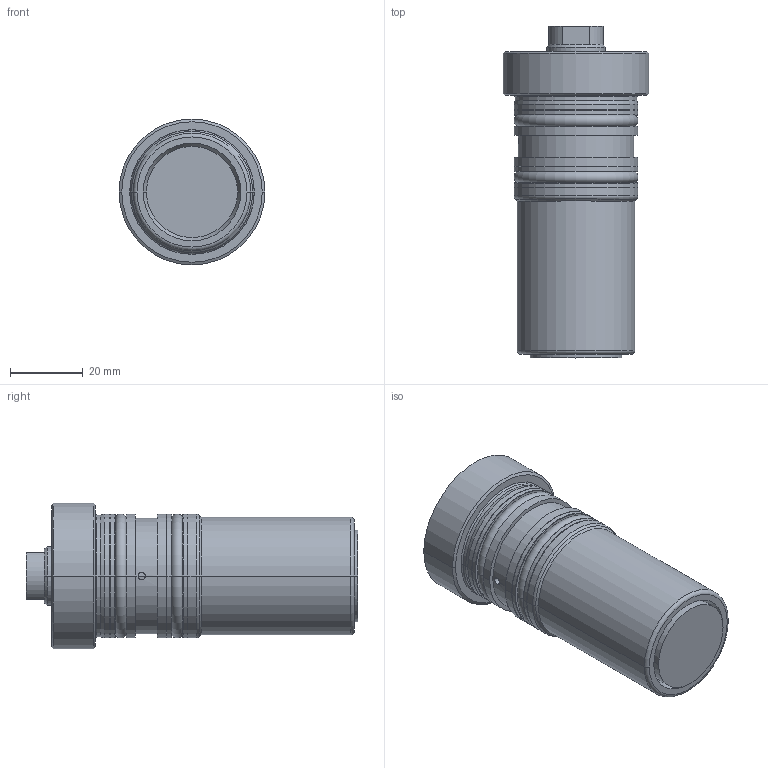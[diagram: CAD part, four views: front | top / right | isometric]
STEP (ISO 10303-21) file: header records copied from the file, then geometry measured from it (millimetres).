
FILE_DESCRIPTION (( 'STEP AP203' ), '1' );
FILE_NAME ('GERMA_Einschraubzylinder_200-025-050.STEP', '2023-09-06T06:44:03', ( '' ), ( '' ), 'SwSTEP 2.0', 'SolidWorks 2016', '' );
FILE_SCHEMA (( 'CONFIG_CONTROL_DESIGN' ));
Length unit declared in the file: millimetre
Products named in the file (3): GERMA_Einschraubzylinder_200-025-050; Gehaeuse 200-025_Gehaeuse 200-025-050; Kolben 60x-025_Kolben DU.25-Hub50-IG
Assembly tree (2 placements, depth 2):
  GERMA_Einschraubzylinder_200-025-050
    Gehaeuse 200-025_Gehaeuse 200-025-050
    Kolben 60x-025_Kolben DU.25-Hub50-IG
Bounding box: 40 x 91 x 40 mm (x, y, z)
Volume: 60412.4 mm3; surface area: 24149.3 mm2
Topology: 2 solids, 2 shells, 252 faces, 623 edges, 396 vertices
Faces by surface type: plane 95, bspline 68, cylinder 45, torus 22, cone 22
Entity records: 11345 total; most frequent: CARTESIAN_POINT 5454, ORIENTED_EDGE 1234, DIRECTION 998, EDGE_CURVE 617, VERTEX_POINT 396, AXIS2_PLACEMENT_3D 336, LINE 326, VECTOR 326
